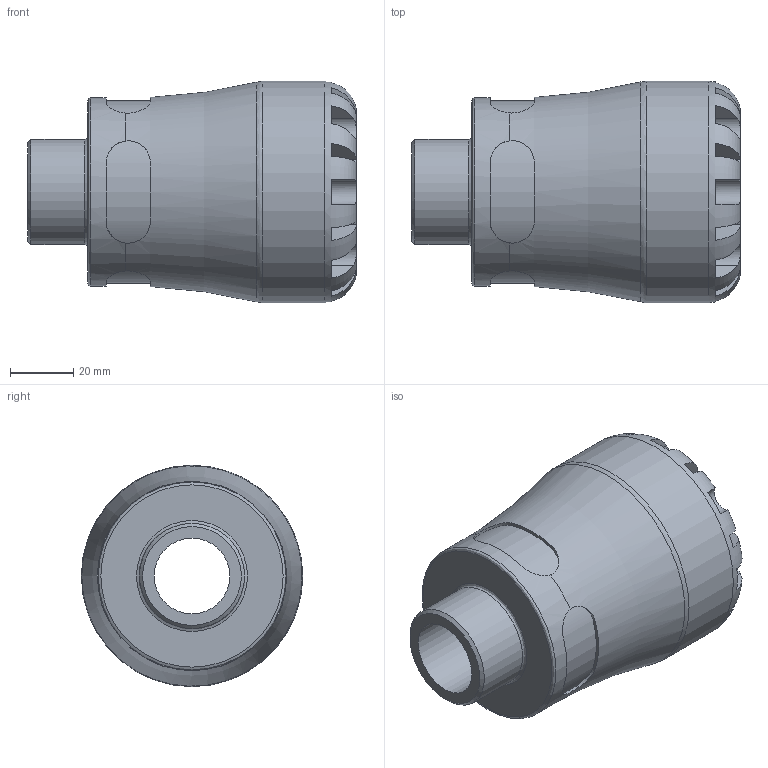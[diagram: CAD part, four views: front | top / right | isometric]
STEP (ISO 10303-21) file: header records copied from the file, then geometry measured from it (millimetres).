
FILE_DESCRIPTION(/* description */ ('PLASSON MALE ADAPTOR 40X1" SERIES 1'),/* implementation_level */ '2;1');
FILE_NAME(/* name */ 'C:\Dropbox\KIMPROJECTS-Inventor\99-16-3568-Processing\S1\1002\100200040010_190200040010.ipt.stp',/* time_stamp */ '2017-07-27T14:39:28+03:00',/* author */ ('KIM'),/* organization */ (''),/* preprocessor_version */ 'ST-DEVELOPER v15.6',/* originating_system */ 'Autodesk Inventor 2015',/* authorisation */ '');
FILE_SCHEMA (('AUTOMOTIVE_DESIGN { 1 0 10303 214 3 1 1 }'));
Length unit declared in the file: millimetre
Products named in the file (1): 100200040010_190200040010
Bounding box: 104 x 70 x 70 mm (x, y, z)
Volume: 183806 mm3; surface area: 37631.9 mm2
Topology: 1 solids, 1 shells, 100 faces, 257 edges, 161 vertices
Faces by surface type: plane 60, cylinder 33, torus 5, cone 2
Full cylindrical faces by diameter (mm): 24 x1, 33.249 x1, 40 x1, 59.5 x1, 70 x1
Entity records: 3776 total; most frequent: CARTESIAN_POINT 1457, ORIENTED_EDGE 484, DIRECTION 462, EDGE_CURVE 242, AXIS2_PLACEMENT_3D 191, VERTEX_POINT 158, EDGE_LOOP 116, FACE_OUTER_BOUND 100
